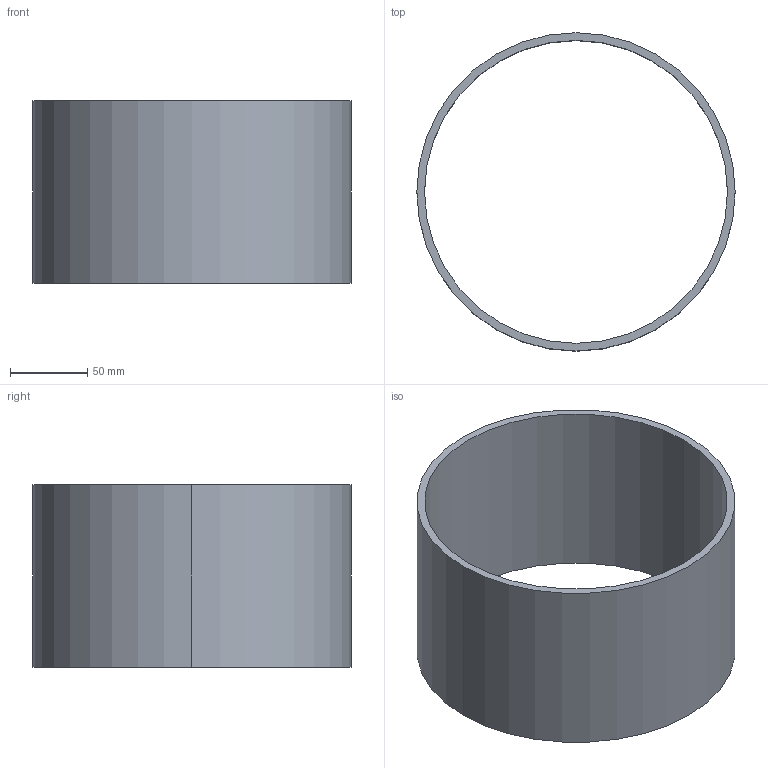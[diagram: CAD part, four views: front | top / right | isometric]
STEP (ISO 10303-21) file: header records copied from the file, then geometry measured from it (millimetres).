
FILE_DESCRIPTION(('CATIA V5 STEP Exchange'),'2;1');
FILE_NAME('C:\_Andres\UNIVERSIDAD\IQS\ASIGNATURAS\DAO\EXF\EXF-15161c\1original\Busquet_Ribera_Ej07-tabla_v3.stp','2016-03-04T21:16:33+00:00',('none'),('none'),'CATIA Version 5 Release 20 SP 1 (IN-10)','CATIA V5 STEP AP203','none');
FILE_SCHEMA(('CONFIG_CONTROL_DESIGN'));
Length unit declared in the file: millimetre
Products named in the file (1): Busquet_Ribera_Ej07-tabla_v3
Bounding box: 206 x 206 x 118 mm (x, y, z)
Volume: 372561.5 mm3; surface area: 155339.2 mm2
Topology: 1 solids, 1 shells, 6 faces, 13 edges, 10 vertices
Faces by surface type: cylinder 4, plane 2
Entity records: 208 total; most frequent: CARTESIAN_POINT 29, ORIENTED_EDGE 24, DIRECTION 23, AXIS2_PLACEMENT_3D 14, EDGE_CURVE 12, CIRCLE 8, EDGE_LOOP 8, VERTEX_POINT 8
